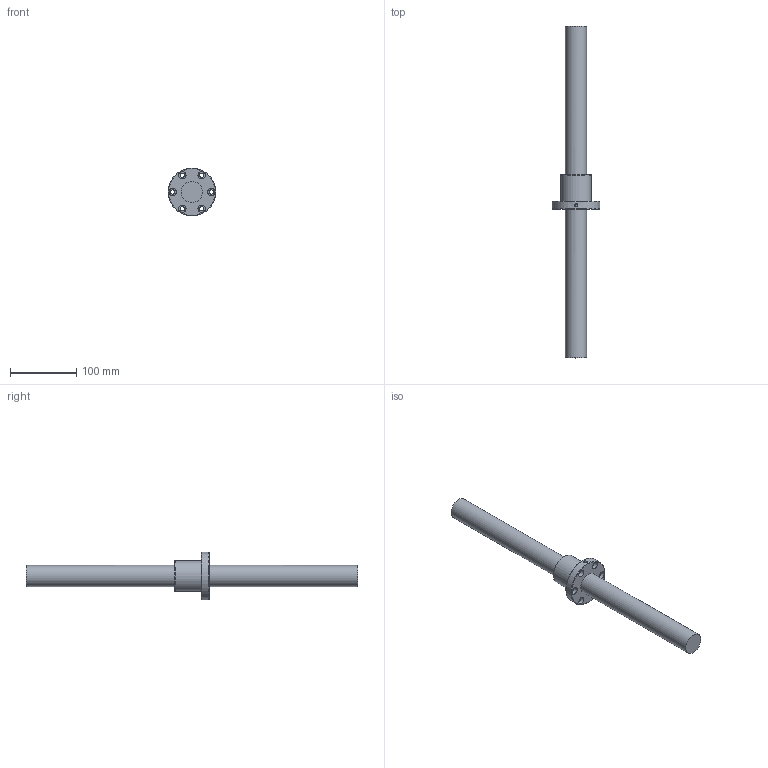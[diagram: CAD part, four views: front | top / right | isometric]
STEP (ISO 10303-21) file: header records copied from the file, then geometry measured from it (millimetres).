
FILE_DESCRIPTION (( 'STEP AP203' ), '1' );
FILE_NAME ('SFNI3205.STEP', '2023-06-06T02:42:50', ( '' ), ( '' ), 'SwSTEP 2.0', 'SolidWorks 2022', '' );
FILE_SCHEMA (( 'CONFIG_CONTROL_DESIGN' ));
Length unit declared in the file: millimetre
Products named in the file (1): SFNI3205
Bounding box: 72 x 500 x 72 mm (x, y, z)
Volume: 470768.2 mm3; surface area: 73815.4 mm2
Topology: 2 solids, 2 shells, 34 faces, 66 edges, 44 vertices
Faces by surface type: cylinder 19, plane 12, torus 3
Full cylindrical faces by diameter (mm): 4 x1, 5 x1, 6.5 x6, 11 x6, 32 x2, 46 x1, 72 x1
Entity records: 1131 total; most frequent: CARTESIAN_POINT 397, DIRECTION 145, ORIENTED_EDGE 82, EDGE_LOOP 80, AXIS2_PLACEMENT_3D 72, FACE_OUTER_BOUND 55, VERTEX_POINT 41, EDGE_CURVE 41
